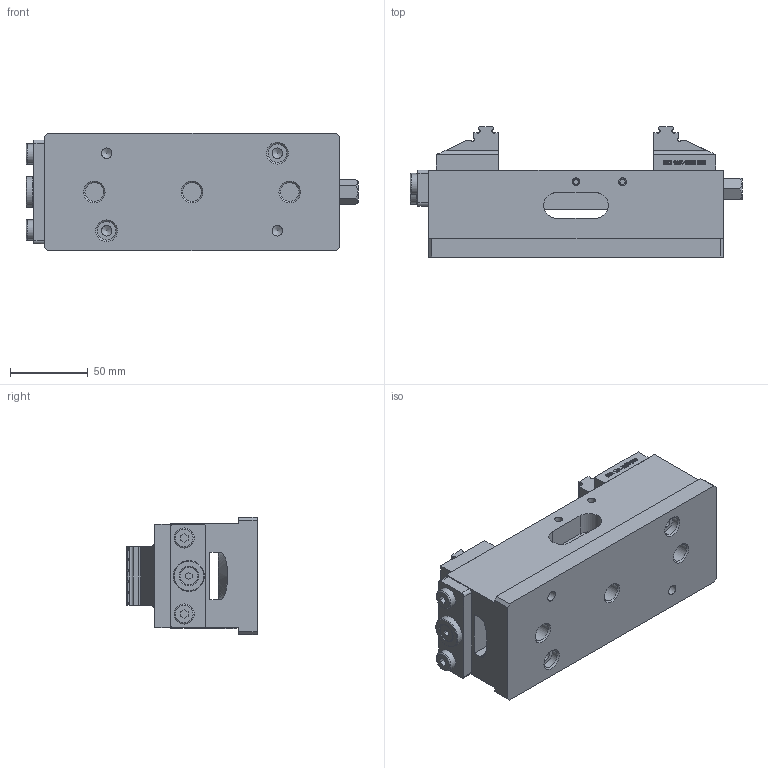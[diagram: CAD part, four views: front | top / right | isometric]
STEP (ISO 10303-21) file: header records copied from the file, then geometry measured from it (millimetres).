
FILE_DESCRIPTION (( 'STEP AP214' ), '1' );
FILE_NAME ('3D-6921528022155.STEP', '2023-12-22T07:21:43', ( '' ), ( '' ), 'SwSTEP 2.0', 'SolidWorks 2021', '' );
FILE_SCHEMA (( 'AUTOMOTIVE_DESIGN' ));
Length unit declared in the file: millimetre
Products named in the file (4): 3D-6921528022155; 3D-6921524050000; 3D-692152802x155; 3D-6921524060000
Assembly tree (3 placements, depth 2):
  3D-6921528022155
    3D-692152802x155
    3D-6921524050000
    3D-6921524060000
Bounding box: 214 x 84 x 76 mm (x, y, z)
Volume: 761107 mm3; surface area: 103403.2 mm2
Topology: 3 solids, 3 shells, 1369 faces, 3649 edges, 2421 vertices
Faces by surface type: plane 735, bspline 517, cylinder 91, cone 24, torus 2
Full cylindrical faces by diameter (mm): 4.2 x4, 5 x2, 6.8 x4, 11.6 x1, 12 x5, 13 x2, 17.5 x1, 19 x3, 20 x1
Entity records: 68535 total; most frequent: CARTESIAN_POINT 38156, ORIENTED_EDGE 7170, DIRECTION 4266, EDGE_CURVE 3585, VERTEX_POINT 2406, VECTOR 2338, LINE 2338, EDGE_LOOP 1565
